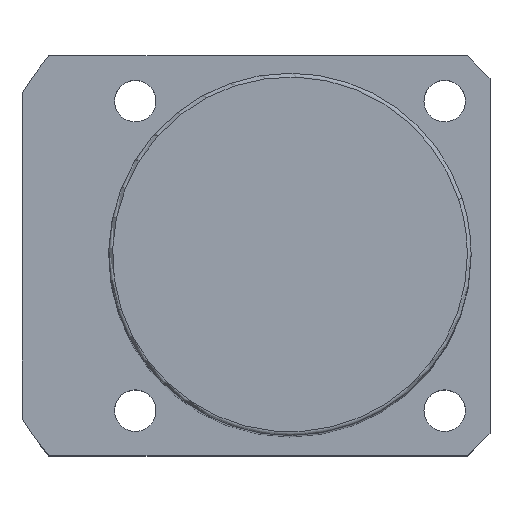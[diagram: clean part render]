
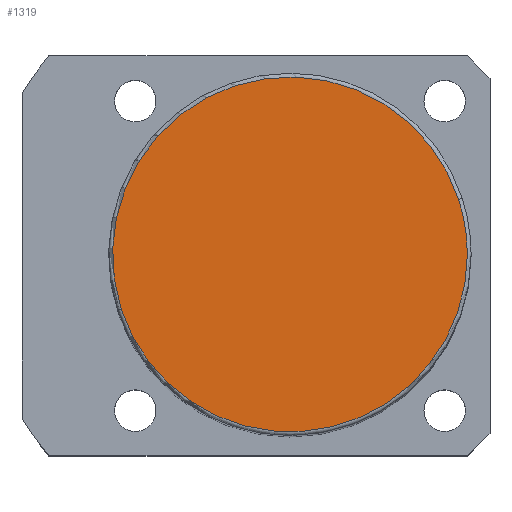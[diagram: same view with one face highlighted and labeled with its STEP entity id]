
A CAD part, top view. The second image highlights one B-rep face of the part: STEP entity #1319.
In plain terms, the highlighted planar face has unit normal (0, 0, 1).
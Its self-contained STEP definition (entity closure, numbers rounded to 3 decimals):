
#1252=CARTESIAN_POINT('',(22.35,7.262,124.0));
#1253=VERTEX_POINT('',#1252);
#1271=CARTESIAN_POINT('',(-22.35,-7.262,124.0));
#1272=VERTEX_POINT('',#1271);
#1280=CARTESIAN_POINT('',(0.0,0.0,124.0));
#1281=DIRECTION('',(0.0,0.0,1.0));
#1282=DIRECTION('',(1.0,0.0,0.0));
#1283=AXIS2_PLACEMENT_3D('',#1280,#1281,#1282);
#1284=CIRCLE('',#1283,23.5);
#1285=EDGE_CURVE('no 1819',#1253,#1272,#1284,.T.);
#1295=CARTESIAN_POINT('',(23.5,0.0,124.0));
#1296=VERTEX_POINT('',#1295);
#1297=CARTESIAN_POINT('',(0.0,0.0,124.0));
#1298=DIRECTION('',(0.0,0.0,1.0));
#1299=DIRECTION('',(1.0,0.0,0.0));
#1300=AXIS2_PLACEMENT_3D('',#1297,#1298,#1299);
#1301=CIRCLE('',#1300,23.5);
#1302=EDGE_CURVE('no 1828',#1296,#1253,#1301,.T.);
#1303=ORIENTED_EDGE('',*,*,#1302,.T.);
#1304=ORIENTED_EDGE('',*,*,#1285,.T.);
#1305=CARTESIAN_POINT('',(0.0,0.0,124.0));
#1306=DIRECTION('',(0.0,0.0,1.0));
#1307=DIRECTION('',(1.0,0.0,0.0));
#1308=AXIS2_PLACEMENT_3D('',#1305,#1306,#1307);
#1309=CIRCLE('',#1308,23.5);
#1310=EDGE_CURVE('no 1834',#1272,#1296,#1309,.T.);
#1311=ORIENTED_EDGE('',*,*,#1310,.T.);
#1312=EDGE_LOOP('',(#1303,#1304,#1311));
#1313=FACE_OUTER_BOUND('',#1312,.T.);
#1314=CARTESIAN_POINT('',(0.0,0.0,124.0));
#1315=DIRECTION('',(0.0,0.0,1.0));
#1316=DIRECTION('',(1.0,0.0,0.0));
#1317=AXIS2_PLACEMENT_3D('',#1314,#1315,#1316);
#1318=PLANE('',#1317);
#1319=ADVANCED_FACE('no 1821',(#1313),#1318,.T.);
